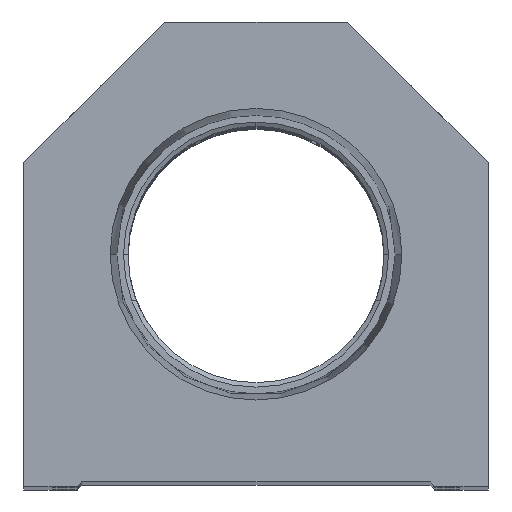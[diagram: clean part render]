
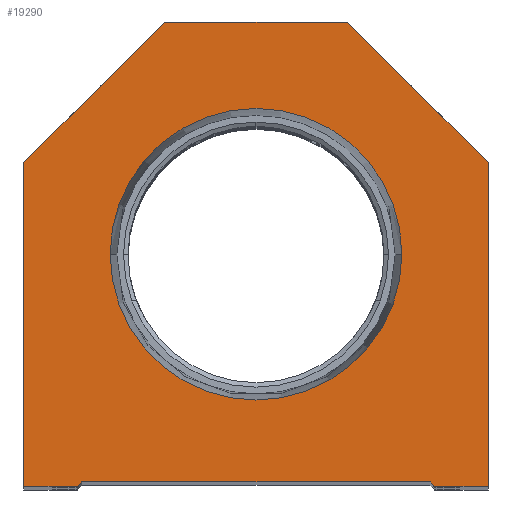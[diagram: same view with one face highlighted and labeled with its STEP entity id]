
A CAD part, top view. The second image highlights one B-rep face of the part: STEP entity #19290.
In plain terms, the highlighted planar face has unit normal (0, 0, 1).
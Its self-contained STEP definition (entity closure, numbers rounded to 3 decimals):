
#59 = EDGE_CURVE ( 'NONE', #10078, #11752, #17549, .T. ) ;
#171 = DIRECTION ( 'NONE',  ( 1., 0., 0. ) ) ;
#231 = DIRECTION ( 'NONE',  ( 1., 0., 0. ) ) ;
#459 = CARTESIAN_POINT ( 'NONE',  ( -9.775, 9.775, 0. ) ) ;
#1161 = ORIENTED_EDGE ( 'NONE', *, *, #18941, .T. ) ;
#1908 = CARTESIAN_POINT ( 'NONE',  ( 25.4, 35.4, 0. ) ) ;
#2243 = CARTESIAN_POINT ( 'NONE',  ( -19.05, 0., 0. ) ) ;
#2246 = CIRCLE ( 'NONE', #9364, 15.947 ) ;
#2280 = EDGE_CURVE ( 'NONE', #11752, #10584, #7449, .T. ) ;
#2581 = EDGE_CURVE ( 'NONE', #8510, #3914, #8487, .T. ) ;
#2710 = DIRECTION ( 'NONE',  ( 0., -1., 0. ) ) ;
#3112 = ORIENTED_EDGE ( 'NONE', *, *, #18048, .T. ) ;
#3236 = CARTESIAN_POINT ( 'NONE',  ( 15.947, 25.4, 0. ) ) ;
#3365 = DIRECTION ( 'NONE',  ( 1., 0., 0. ) ) ;
#3434 = DIRECTION ( 'NONE',  ( 1., 0., 0. ) ) ;
#3435 = EDGE_CURVE ( 'NONE', #12871, #16945, #5311, .T. ) ;
#3446 = FACE_OUTER_BOUND ( 'NONE', #15757, .T. ) ;
#3914 = VERTEX_POINT ( 'NONE', #3236 ) ;
#4270 = CARTESIAN_POINT ( 'NONE',  ( 9.775, 9.775, 0. ) ) ;
#4349 = ORIENTED_EDGE ( 'NONE', *, *, #12437, .F. ) ;
#4502 = CARTESIAN_POINT ( 'NONE',  ( -15.947, 25.4, 0. ) ) ;
#4629 = ORIENTED_EDGE ( 'NONE', *, *, #2280, .T. ) ;
#4867 = ORIENTED_EDGE ( 'NONE', *, *, #9676, .T. ) ;
#4937 = AXIS2_PLACEMENT_3D ( 'NONE', #22336, #18894, #3434 ) ;
#5246 = VECTOR ( 'NONE', #9183, 1000. ) ;
#5311 = LINE ( 'NONE', #10651, #22520 ) ;
#5703 = CARTESIAN_POINT ( 'NONE',  ( -10., 50.8, 0. ) ) ;
#5707 = LINE ( 'NONE', #13247, #21848 ) ;
#6032 = VECTOR ( 'NONE', #9414, 1000. ) ;
#6731 = EDGE_CURVE ( 'NONE', #19496, #15176, #20848, .T. ) ;
#7145 = PLANE ( 'NONE',  #24222 ) ;
#7449 = LINE ( 'NONE', #2243, #9317 ) ;
#7551 = VERTEX_POINT ( 'NONE', #22062 ) ;
#8095 = DIRECTION ( 'NONE',  ( 0.707, -0.707, 0. ) ) ;
#8106 = DIRECTION ( 'NONE',  ( 1., 0., 0. ) ) ;
#8463 = EDGE_LOOP ( 'NONE', ( #4349, #11241 ) ) ;
#8487 = CIRCLE ( 'NONE', #4937, 15.947 ) ;
#8502 = CARTESIAN_POINT ( 'NONE',  ( 25.4, 0., 0. ) ) ;
#8510 = VERTEX_POINT ( 'NONE', #4502 ) ;
#9183 = DIRECTION ( 'NONE',  ( 0., 1., 0. ) ) ;
#9317 = VECTOR ( 'NONE', #171, 1000. ) ;
#9364 = AXIS2_PLACEMENT_3D ( 'NONE', #17363, #22928, #8106 ) ;
#9414 = DIRECTION ( 'NONE',  ( -1., 0., 0. ) ) ;
#9500 = DIRECTION ( 'NONE',  ( 0., 0., 1. ) ) ;
#9610 = CARTESIAN_POINT ( 'NONE',  ( -19.05, 0.5, 0. ) ) ;
#9676 = EDGE_CURVE ( 'NONE', #16506, #10078, #14792, .T. ) ;
#9822 = EDGE_CURVE ( 'NONE', #10584, #19496, #17366, .T. ) ;
#10078 = VERTEX_POINT ( 'NONE', #17016 ) ;
#10526 = ORIENTED_EDGE ( 'NONE', *, *, #9822, .T. ) ;
#10584 = VERTEX_POINT ( 'NONE', #23991 ) ;
#10651 = CARTESIAN_POINT ( 'NONE',  ( 25.4, 35.4, 0. ) ) ;
#10737 = DIRECTION ( 'NONE',  ( -0.707, -0.707, 0. ) ) ;
#11028 = EDGE_CURVE ( 'NONE', #12189, #12871, #18456, .T. ) ;
#11127 = FACE_BOUND ( 'NONE', #8463, .T. ) ;
#11241 = ORIENTED_EDGE ( 'NONE', *, *, #2581, .F. ) ;
#11372 = ORIENTED_EDGE ( 'NONE', *, *, #6731, .T. ) ;
#11752 = VERTEX_POINT ( 'NONE', #20064 ) ;
#12189 = VERTEX_POINT ( 'NONE', #8502 ) ;
#12397 = VECTOR ( 'NONE', #10737, 1000. ) ;
#12437 = EDGE_CURVE ( 'NONE', #3914, #8510, #2246, .T. ) ;
#12871 = VERTEX_POINT ( 'NONE', #1908 ) ;
#12906 = CARTESIAN_POINT ( 'NONE',  ( 10., 50.8, 0. ) ) ;
#13050 = CARTESIAN_POINT ( 'NONE',  ( -19.05, 0.5, 0. ) ) ;
#13094 = LINE ( 'NONE', #18801, #6032 ) ;
#13247 = CARTESIAN_POINT ( 'NONE',  ( 19.05, 0., 0. ) ) ;
#14209 = DIRECTION ( 'NONE',  ( -0.707, 0.707, 0. ) ) ;
#14792 = LINE ( 'NONE', #18502, #12397 ) ;
#15176 = VERTEX_POINT ( 'NONE', #19441 ) ;
#15695 = CARTESIAN_POINT ( 'NONE',  ( -25.4, 0., 0. ) ) ;
#15757 = EDGE_LOOP ( 'NONE', ( #4629, #10526, #11372, #1161, #16663, #15831, #20972, #3112, #4867, #20168 ) ) ;
#15831 = ORIENTED_EDGE ( 'NONE', *, *, #11028, .T. ) ;
#16468 = CARTESIAN_POINT ( 'NONE',  ( 25.4, 0., 0. ) ) ;
#16506 = VERTEX_POINT ( 'NONE', #5703 ) ;
#16663 = ORIENTED_EDGE ( 'NONE', *, *, #22035, .T. ) ;
#16945 = VERTEX_POINT ( 'NONE', #12906 ) ;
#17016 = CARTESIAN_POINT ( 'NONE',  ( -25.4, 35.4, 0. ) ) ;
#17363 = CARTESIAN_POINT ( 'NONE',  ( 0., 25.4, 0. ) ) ;
#17366 = LINE ( 'NONE', #459, #17915 ) ;
#17549 = LINE ( 'NONE', #15695, #22785 ) ;
#17915 = VECTOR ( 'NONE', #22828, 1000. ) ;
#18048 = EDGE_CURVE ( 'NONE', #16945, #16506, #13094, .T. ) ;
#18456 = LINE ( 'NONE', #16468, #5246 ) ;
#18502 = CARTESIAN_POINT ( 'NONE',  ( -25.4, 35.4, 0. ) ) ;
#18521 = DIRECTION ( 'NONE',  ( 1., 0., 0. ) ) ;
#18801 = CARTESIAN_POINT ( 'NONE',  ( 10., 50.8, 0. ) ) ;
#18894 = DIRECTION ( 'NONE',  ( 0., 0., 1. ) ) ;
#18941 = EDGE_CURVE ( 'NONE', #15176, #7551, #21194, .T. ) ;
#19290 = ADVANCED_FACE ( 'NONE', ( #11127, #3446 ), #7145, .T. ) ;
#19441 = CARTESIAN_POINT ( 'NONE',  ( 19.05, 0.5, 0. ) ) ;
#19496 = VERTEX_POINT ( 'NONE', #13050 ) ;
#19874 = VECTOR ( 'NONE', #8095, 1000. ) ;
#20064 = CARTESIAN_POINT ( 'NONE',  ( -25.4, 0., 0. ) ) ;
#20168 = ORIENTED_EDGE ( 'NONE', *, *, #59, .T. ) ;
#20745 = CARTESIAN_POINT ( 'NONE',  ( 0., 0., 0. ) ) ;
#20848 = LINE ( 'NONE', #9610, #21535 ) ;
#20972 = ORIENTED_EDGE ( 'NONE', *, *, #3435, .T. ) ;
#21194 = LINE ( 'NONE', #4270, #19874 ) ;
#21535 = VECTOR ( 'NONE', #231, 1000. ) ;
#21848 = VECTOR ( 'NONE', #3365, 1000. ) ;
#22035 = EDGE_CURVE ( 'NONE', #7551, #12189, #5707, .T. ) ;
#22062 = CARTESIAN_POINT ( 'NONE',  ( 19.55, 0., 0. ) ) ;
#22336 = CARTESIAN_POINT ( 'NONE',  ( 0., 25.4, 0. ) ) ;
#22520 = VECTOR ( 'NONE', #14209, 1000. ) ;
#22785 = VECTOR ( 'NONE', #2710, 1000. ) ;
#22828 = DIRECTION ( 'NONE',  ( 0.707, 0.707, 0. ) ) ;
#22928 = DIRECTION ( 'NONE',  ( 0., 0., 1. ) ) ;
#23991 = CARTESIAN_POINT ( 'NONE',  ( -19.55, 0., 0. ) ) ;
#24222 = AXIS2_PLACEMENT_3D ( 'NONE', #20745, #9500, #18521 ) ;
